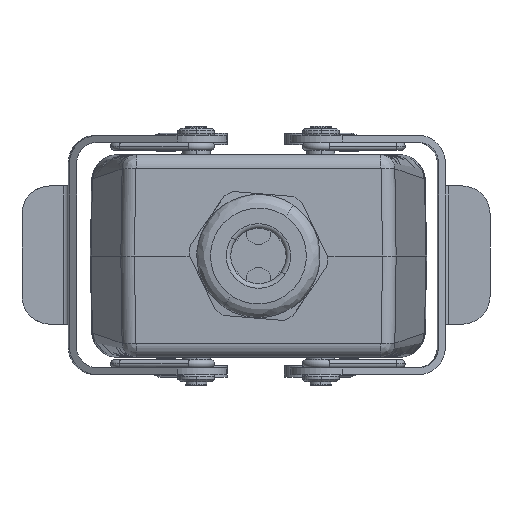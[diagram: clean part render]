
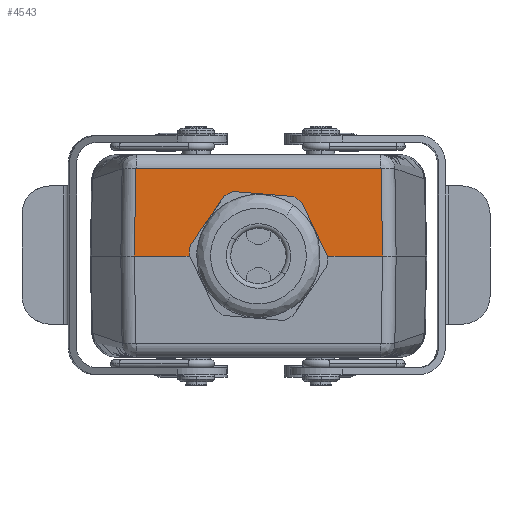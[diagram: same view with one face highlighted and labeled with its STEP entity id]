
A CAD part, front view. The second image highlights one B-rep face of the part: STEP entity #4543.
In plain terms, the highlighted planar face has unit normal (0, -1, 0.018) as drawn and (-0.009, 1, 0.017) by its records, which use the part's own axes.
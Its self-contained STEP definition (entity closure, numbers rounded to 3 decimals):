
#2435 = CARTESIAN_POINT ( 'NONE',  ( 9.754, 60.068, -0.2 ) ) ;
#4543 = ADVANCED_FACE ( 'NONE', ( #120478 ), #131963, .T. ) ;
#7025 = CARTESIAN_POINT ( 'NONE',  ( 26.433, 60.222, -0.2 ) ) ;
#7704 = VERTEX_POINT ( 'NONE', #141156 ) ;
#9165 = EDGE_CURVE ( 'NONE', #117281, #12158, #131947, .T. ) ;
#12158 = VERTEX_POINT ( 'NONE', #73503 ) ;
#17083 = AXIS2_PLACEMENT_3D ( 'NONE', #131272, #117648, #106773 ) ;
#17548 = CARTESIAN_POINT ( 'NONE',  ( -1.165, 59.788, 10.068 ) ) ;
#20622 = EDGE_CURVE ( 'NONE', #105687, #118920, #70528, .T. ) ;
#21555 = CARTESIAN_POINT ( 'NONE',  ( -27.013, 59.396, 18.852 ) ) ;
#23040 = CARTESIAN_POINT ( 'NONE',  ( 26.159, 59.889, 18.717 ) ) ;
#23581 = CARTESIAN_POINT ( 'NONE',  ( -76.936, 58.936, 18.852 ) ) ;
#23757 = CARTESIAN_POINT ( 'NONE',  ( 26.021, 59.885, 18.852 ) ) ;
#24814 = CARTESIAN_POINT ( 'NONE',  ( 4.646, 59.865, 8.711 ) ) ;
#25087 = VECTOR ( 'NONE', #26983, 1000. ) ;
#26983 = DIRECTION ( 'NONE',  ( -1., -0.009, 0. ) ) ;
#27214 = VECTOR ( 'NONE', #123579, 1000. ) ;
#27369 = CARTESIAN_POINT ( 'NONE',  ( -27.331, 59.616, 6.108 ) ) ;
#28401 = CARTESIAN_POINT ( 'NONE',  ( -8.223, 59.784, 6.584 ) ) ;
#28523 = CARTESIAN_POINT ( 'NONE',  ( 9.754, 60.068, -0.2 ) ) ;
#29095 = CARTESIAN_POINT ( 'NONE',  ( -10.681, 59.856, 1.142 ) ) ;
#29174 = B_SPLINE_CURVE_WITH_KNOTS ( 'NONE', 3,
 ( #23757, #133571, #132856, #121354, #108411, #23040 ),
 .UNSPECIFIED., .F., .F.,
 ( 4, 2, 4 ),
 ( 0., 0.5, 1. ),
 .UNSPECIFIED. ) ;
#31612 = CARTESIAN_POINT ( 'NONE',  ( 26.433, 60.222, -0.2 ) ) ;
#32057 = EDGE_LOOP ( 'NONE', ( #41704, #58131, #108117, #86375, #42253, #132247, #127165, #45888, #92896 ) ) ;
#33778 = EDGE_CURVE ( 'NONE', #80505, #88010, #79891, .T. ) ;
#34960 = CARTESIAN_POINT ( 'NONE',  ( 7.66, 59.939, 6.063 ) ) ;
#35678 = CARTESIAN_POINT ( 'NONE',  ( 8.407, 59.966, 4.942 ) ) ;
#36785 = CARTESIAN_POINT ( 'NONE',  ( -27.013, 59.396, 18.852 ) ) ;
#37861 = LINE ( 'NONE', #81957, #25087 ) ;
#39277 = CARTESIAN_POINT ( 'NONE',  ( -1.834, 59.783, 10.002 ) ) ;
#39998 = CARTESIAN_POINT ( 'NONE',  ( -10.226, 59.826, 3.106 ) ) ;
#41704 = ORIENTED_EDGE ( 'NONE', *, *, #66491, .T. ) ;
#42253 = ORIENTED_EDGE ( 'NONE', *, *, #85115, .T. ) ;
#42542 = CARTESIAN_POINT ( 'NONE',  ( -27.144, 59.397, 18.723 ) ) ;
#45797 = CARTESIAN_POINT ( 'NONE',  ( 8.723, 59.979, 4.35 ) ) ;
#45888 = ORIENTED_EDGE ( 'NONE', *, *, #48714, .T. ) ;
#46509 = CARTESIAN_POINT ( 'NONE',  ( 9.69, 60.044, 1.142 ) ) ;
#47877 = EDGE_CURVE ( 'NONE', #50107, #80505, #65824, .T. ) ;
#48714 = EDGE_CURVE ( 'NONE', #117281, #105687, #76620, .T. ) ;
#49387 = CARTESIAN_POINT ( 'NONE',  ( -5.04, 59.77, 9.029 ) ) ;
#50107 = VERTEX_POINT ( 'NONE', #7025 ) ;
#58093 = CARTESIAN_POINT ( 'NONE',  ( 2.811, 59.834, 9.543 ) ) ;
#58131 = ORIENTED_EDGE ( 'NONE', *, *, #66953, .F. ) ;
#61622 = CARTESIAN_POINT ( 'NONE',  ( -9.396, 59.801, 4.944 ) ) ;
#62327 = CARTESIAN_POINT ( 'NONE',  ( -10.745, 59.879, -0.2 ) ) ;
#63600 = B_SPLINE_CURVE_WITH_KNOTS ( 'NONE', 3,
 ( #94212, #17548, #39277, #125942, #83364, #49387, #93492, #116590, #127365, #28401, #72458, #61622, #84067, #39998, #128070, #29095, #73202, #62327 ),
 .UNSPECIFIED., .F., .F.,
 ( 4, 2, 2, 2, 2, 2, 2, 2, 4 ),
 ( 0., 0.125, 0.25, 0.375, 0.5, 0.625, 0.75, 0.875, 1. ),
 .UNSPECIFIED. ) ;
#64152 = CARTESIAN_POINT ( 'NONE',  ( -10.745, 59.879, -0.2 ) ) ;
#64902 = CARTESIAN_POINT ( 'NONE',  ( -27.13, 59.396, 18.79 ) ) ;
#65824 = LINE ( 'NONE', #111362, #27214 ) ;
#66491 = EDGE_CURVE ( 'NONE', #118920, #7704, #29174, .T. ) ;
#66953 = EDGE_CURVE ( 'NONE', #50107, #7704, #142118, .T. ) ;
#67291 = EDGE_CURVE ( 'NONE', #74721, #12158, #37861, .T. ) ;
#68179 = CARTESIAN_POINT ( 'NONE',  ( 6.284, 59.901, 7.535 ) ) ;
#68908 = CARTESIAN_POINT ( 'NONE',  ( 4.056, 59.854, 9.027 ) ) ;
#70528 = LINE ( 'NONE', #23581, #74790 ) ;
#72458 = CARTESIAN_POINT ( 'NONE',  ( -8.648, 59.789, 6.064 ) ) ;
#73202 = CARTESIAN_POINT ( 'NONE',  ( -10.746, 59.867, 0.474 ) ) ;
#73503 = CARTESIAN_POINT ( 'NONE',  ( -27.425, 59.725, -0.2 ) ) ;
#74347 = CARTESIAN_POINT ( 'NONE',  ( -27.144, 59.396, 18.759 ) ) ;
#74721 = VERTEX_POINT ( 'NONE', #64152 ) ;
#74790 = VECTOR ( 'NONE', #113209, 1000. ) ;
#75825 = CARTESIAN_POINT ( 'NONE',  ( 26.021, 59.885, 18.852 ) ) ;
#76497 = CARTESIAN_POINT ( 'NONE',  ( -27.08, 59.396, 18.84 ) ) ;
#76620 = B_SPLINE_CURVE_WITH_KNOTS ( 'NONE', 3,
 ( #42542, #74347, #64902, #76497, #120578, #21555 ),
 .UNSPECIFIED., .F., .F.,
 ( 4, 2, 4 ),
 ( 0., 0.5, 1. ),
 .UNSPECIFIED. ) ;
#79891 = B_SPLINE_CURVE_WITH_KNOTS ( 'NONE', 3,
 ( #2435, #101447, #46509, #133899, #100715, #45797, #35678, #34960, #123102, #68179, #123811, #24814, #68908, #58093, #91336, #135360, #80483, #94199 ),
 .UNSPECIFIED., .F., .F.,
 ( 4, 2, 2, 2, 2, 2, 2, 2, 4 ),
 ( 0., 0.125, 0.25, 0.375, 0.5, 0.625, 0.75, 0.875, 1. ),
 .UNSPECIFIED. ) ;
#80483 = CARTESIAN_POINT ( 'NONE',  ( 0.181, 59.8, 10.067 ) ) ;
#80505 = VERTEX_POINT ( 'NONE', #28523 ) ;
#81957 = CARTESIAN_POINT ( 'NONE',  ( -76.939, 59.268, -0.2 ) ) ;
#83364 = CARTESIAN_POINT ( 'NONE',  ( -3.797, 59.773, 9.544 ) ) ;
#84067 = CARTESIAN_POINT ( 'NONE',  ( -9.712, 59.809, 4.352 ) ) ;
#85115 = EDGE_CURVE ( 'NONE', #88010, #74721, #63600, .T. ) ;
#86375 = ORIENTED_EDGE ( 'NONE', *, *, #33778, .T. ) ;
#88010 = VERTEX_POINT ( 'NONE', #92930 ) ;
#91336 = CARTESIAN_POINT ( 'NONE',  ( 2.17, 59.824, 9.738 ) ) ;
#92896 = ORIENTED_EDGE ( 'NONE', *, *, #20622, .T. ) ;
#92930 = CARTESIAN_POINT ( 'NONE',  ( -0.492, 59.794, 10.067 ) ) ;
#93492 = CARTESIAN_POINT ( 'NONE',  ( -5.633, 59.77, 8.712 ) ) ;
#94199 = CARTESIAN_POINT ( 'NONE',  ( -0.492, 59.794, 10.067 ) ) ;
#94212 = CARTESIAN_POINT ( 'NONE',  ( -0.492, 59.794, 10.067 ) ) ;
#98097 = DIRECTION ( 'NONE',  ( -0.014, -0.018, 1. ) ) ;
#100715 = CARTESIAN_POINT ( 'NONE',  ( 9.236, 60.005, 3.106 ) ) ;
#101447 = CARTESIAN_POINT ( 'NONE',  ( 9.755, 60.056, 0.474 ) ) ;
#103759 = CARTESIAN_POINT ( 'NONE',  ( -27.144, 59.397, 18.723 ) ) ;
#105687 = VERTEX_POINT ( 'NONE', #36785 ) ;
#106773 = DIRECTION ( 'NONE',  ( 0.884, 0., 0.467 ) ) ;
#108117 = ORIENTED_EDGE ( 'NONE', *, *, #47877, .T. ) ;
#108411 = CARTESIAN_POINT ( 'NONE',  ( 26.159, 59.888, 18.755 ) ) ;
#111362 = CARTESIAN_POINT ( 'NONE',  ( -76.939, 59.268, -0.2 ) ) ;
#113209 = DIRECTION ( 'NONE',  ( 1., 0.009, 0. ) ) ;
#116590 = CARTESIAN_POINT ( 'NONE',  ( -6.752, 59.773, 7.963 ) ) ;
#117007 = CARTESIAN_POINT ( 'NONE',  ( -27.144, 59.397, 18.723 ) ) ;
#117281 = VERTEX_POINT ( 'NONE', #103759 ) ;
#117648 = DIRECTION ( 'NONE',  ( -0.009, 1., 0.017 ) ) ;
#118920 = VERTEX_POINT ( 'NONE', #75825 ) ;
#120478 = FACE_OUTER_BOUND ( 'NONE', #32057, .T. ) ;
#120578 = CARTESIAN_POINT ( 'NONE',  ( -27.049, 59.396, 18.852 ) ) ;
#121354 = CARTESIAN_POINT ( 'NONE',  ( 26.145, 59.887, 18.787 ) ) ;
#123102 = CARTESIAN_POINT ( 'NONE',  ( 7.235, 59.926, 6.582 ) ) ;
#123579 = DIRECTION ( 'NONE',  ( -1., -0.009, 0. ) ) ;
#123811 = CARTESIAN_POINT ( 'NONE',  ( 5.766, 59.888, 7.961 ) ) ;
#125942 = CARTESIAN_POINT ( 'NONE',  ( -3.154, 59.775, 9.739 ) ) ;
#126577 = VECTOR ( 'NONE', #98097, 1000. ) ;
#127064 = CARTESIAN_POINT ( 'NONE',  ( -27.425, 59.725, -0.2 ) ) ;
#127165 = ORIENTED_EDGE ( 'NONE', *, *, #9165, .F. ) ;
#127365 = CARTESIAN_POINT ( 'NONE',  ( -7.271, 59.776, 7.537 ) ) ;
#128070 = CARTESIAN_POINT ( 'NONE',  ( -10.42, 59.835, 2.464 ) ) ;
#131272 = CARTESIAN_POINT ( 'NONE',  ( -76.939, 59.268, -0.2 ) ) ;
#131947 = B_SPLINE_CURVE_WITH_KNOTS ( 'NONE', 3,
 ( #117007, #140034, #27369, #127064 ),
 .UNSPECIFIED., .F., .F.,
 ( 4, 4 ),
 ( 0., 1. ),
 .UNSPECIFIED. ) ;
#131963 = PLANE ( 'NONE',  #17083 ) ;
#132247 = ORIENTED_EDGE ( 'NONE', *, *, #67291, .T. ) ;
#132856 = CARTESIAN_POINT ( 'NONE',  ( 26.091, 59.886, 18.839 ) ) ;
#133571 = CARTESIAN_POINT ( 'NONE',  ( 26.058, 59.886, 18.852 ) ) ;
#133899 = CARTESIAN_POINT ( 'NONE',  ( 9.43, 60.018, 2.463 ) ) ;
#135360 = CARTESIAN_POINT ( 'NONE',  ( 0.848, 59.808, 10.001 ) ) ;
#140034 = CARTESIAN_POINT ( 'NONE',  ( -27.238, 59.506, 12.416 ) ) ;
#141156 = CARTESIAN_POINT ( 'NONE',  ( 26.159, 59.889, 18.717 ) ) ;
#142118 = LINE ( 'NONE', #31612, #126577 ) ;
